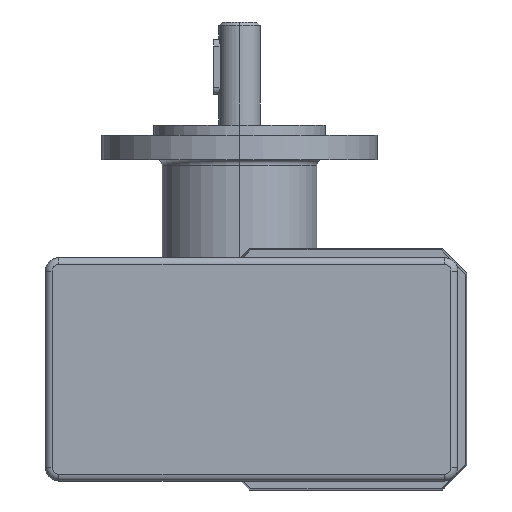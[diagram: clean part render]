
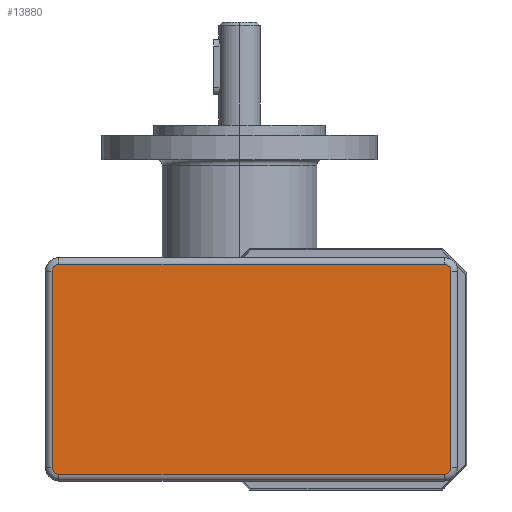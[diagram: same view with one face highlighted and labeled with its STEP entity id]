
A CAD part, left-side view. The second image highlights one B-rep face of the part: STEP entity #13880.
In plain terms, the highlighted planar face has unit normal (-1, 0, 0) as drawn and (0, 0, -1) by its records, which use the part's own axes.
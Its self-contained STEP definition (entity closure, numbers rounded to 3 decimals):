
#10690=CARTESIAN_POINT('',(-104.958,-208.977,-54.5));
#10700=VERTEX_POINT('',#10690);
#10750=CARTESIAN_POINT('',(-104.958,-210.977,-54.5));
#10760=DIRECTION('',(0.,0.,-1.));
#10770=DIRECTION('',(-1.,0.,0.));
#10780=AXIS2_PLACEMENT_3D('',#10750,#10760,#10770);
#10790=CIRCLE('',#10780,2.);
#10800=CARTESIAN_POINT('',(-102.958,-210.977,-54.5));
#10810=VERTEX_POINT('',#10800);
#10820=EDGE_CURVE('',#10700,#10810,#10790,.T.);
#13150=CARTESIAN_POINT('',(-102.958,-322.977,-54.5));
#13160=VERTEX_POINT('',#13150);
#13210=CARTESIAN_POINT('',(-102.958,-305.92,-54.5));
#13220=DIRECTION('',(0.,1.,0.));
#13230=VECTOR('',#13220,1.);
#13240=LINE('',#13210,#13230);
#13250=EDGE_CURVE('',#13160,#10810,#13240,.T.);
#13300=CARTESIAN_POINT('',(-121.85,-305.92,-54.5));
#13310=DIRECTION('',(0.,0.,-1.));
#13320=DIRECTION('',(-1.,0.,0.));
#13330=AXIS2_PLACEMENT_3D('',#13300,#13310,#13320);
#13340=PLANE('',#13330);
#13350=CARTESIAN_POINT('',(-104.958,-322.977,-54.5));
#13360=DIRECTION('',(0.,0.,-1.));
#13370=DIRECTION('',(-1.,0.,0.));
#13380=AXIS2_PLACEMENT_3D('',#13350,#13360,#13370);
#13390=CIRCLE('',#13380,2.);
#13400=CARTESIAN_POINT('',(-104.958,-324.977,-54.5));
#13410=VERTEX_POINT('',#13400);
#13420=EDGE_CURVE('',#13160,#13410,#13390,.T.);
#13430=ORIENTED_EDGE('',*,*,#13420,.T.);
#13440=ORIENTED_EDGE('',*,*,#13250,.F.);
#13450=ORIENTED_EDGE('',*,*,#10820,.T.);
#13460=CARTESIAN_POINT('',(-121.85,-208.977,-54.5));
#13470=DIRECTION('',(-1.,0.,0.));
#13480=VECTOR('',#13470,1.);
#13490=LINE('',#13460,#13480);
#13500=CARTESIAN_POINT('',(-161.958,-208.977,-54.5));
#13510=VERTEX_POINT('',#13500);
#13520=EDGE_CURVE('',#10700,#13510,#13490,.T.);
#13530=ORIENTED_EDGE('',*,*,#13520,.F.);
#13540=CARTESIAN_POINT('',(-161.958,-210.977,-54.5));
#13550=DIRECTION('',(0.,0.,-1.));
#13560=DIRECTION('',(-1.,0.,0.));
#13570=AXIS2_PLACEMENT_3D('',#13540,#13550,#13560);
#13580=CIRCLE('',#13570,2.);
#13590=CARTESIAN_POINT('',(-163.958,-210.977,-54.5));
#13600=VERTEX_POINT('',#13590);
#13610=EDGE_CURVE('',#13600,#13510,#13580,.T.);
#13620=ORIENTED_EDGE('',*,*,#13610,.T.);
#13630=CARTESIAN_POINT('',(-163.958,-305.92,-54.5));
#13640=DIRECTION('',(0.,-1.,0.));
#13650=VECTOR('',#13640,1.);
#13660=LINE('',#13630,#13650);
#13670=CARTESIAN_POINT('',(-163.958,-322.977,-54.5));
#13680=VERTEX_POINT('',#13670);
#13690=EDGE_CURVE('',#13600,#13680,#13660,.T.);
#13700=ORIENTED_EDGE('',*,*,#13690,.F.);
#13710=CARTESIAN_POINT('',(-161.958,-322.977,-54.5));
#13720=DIRECTION('',(0.,0.,-1.));
#13730=DIRECTION('',(-1.,0.,0.));
#13740=AXIS2_PLACEMENT_3D('',#13710,#13720,#13730);
#13750=CIRCLE('',#13740,2.);
#13760=CARTESIAN_POINT('',(-161.958,-324.977,-54.5));
#13770=VERTEX_POINT('',#13760);
#13780=EDGE_CURVE('',#13770,#13680,#13750,.T.);
#13790=ORIENTED_EDGE('',*,*,#13780,.T.);
#13800=CARTESIAN_POINT('',(-121.85,-324.977,-54.5));
#13810=DIRECTION('',(1.,0.,0.));
#13820=VECTOR('',#13810,1.);
#13830=LINE('',#13800,#13820);
#13840=EDGE_CURVE('',#13770,#13410,#13830,.T.);
#13850=ORIENTED_EDGE('',*,*,#13840,.F.);
#13860=EDGE_LOOP('',(#13850,#13790,#13700,#13620,#13530,#13450,#13440,
#13430));
#13870=FACE_OUTER_BOUND('',#13860,.T.);
#13880=ADVANCED_FACE('',(#13870),#13340,.T.);
